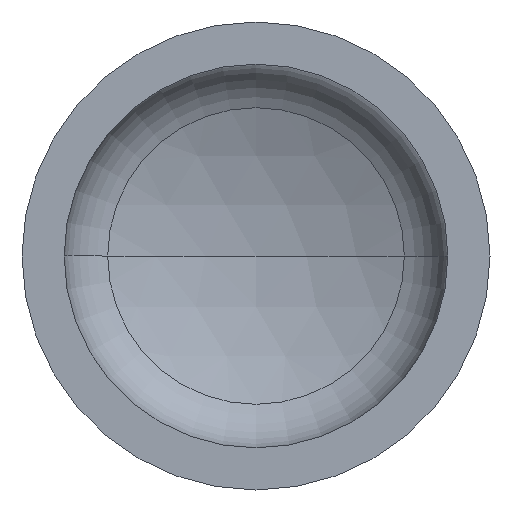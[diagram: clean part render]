
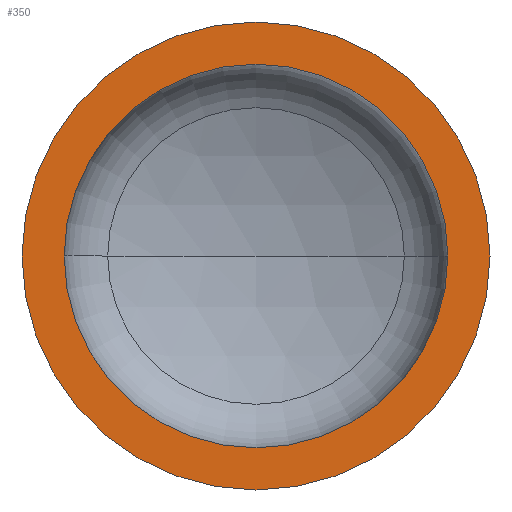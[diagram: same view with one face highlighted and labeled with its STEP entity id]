
A CAD part, front view. The second image highlights one B-rep face of the part: STEP entity #350.
In plain terms, the highlighted planar face has unit normal (0, -1, 0).
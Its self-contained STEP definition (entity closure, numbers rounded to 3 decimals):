
#9 = EDGE_LOOP ( 'NONE', ( #79, #30 ) ) ;
#22 = ORIENTED_EDGE ( 'NONE', *, *, #142, .F. ) ;
#30 = ORIENTED_EDGE ( 'NONE', *, *, #141, .T. ) ;
#42 = PLANE ( 'NONE',  #52 ) ;
#48 = FACE_OUTER_BOUND ( 'NONE', #9, .T. ) ;
#52 = AXIS2_PLACEMENT_3D ( 'NONE', #178, #184, #185 ) ;
#54 = AXIS2_PLACEMENT_3D ( 'NONE', #82, #94, #103 ) ;
#67 = EDGE_LOOP ( 'NONE', ( #22, #143 ) ) ;
#72 = VERTEX_POINT ( 'NONE', #232 ) ;
#79 = ORIENTED_EDGE ( 'NONE', *, *, #133, .T. ) ;
#82 = CARTESIAN_POINT ( 'NONE',  ( 0., 0., 0. ) ) ;
#91 = AXIS2_PLACEMENT_3D ( 'NONE', #299, #296, #294 ) ;
#94 = DIRECTION ( 'NONE',  ( 0., -1., 0. ) ) ;
#95 = AXIS2_PLACEMENT_3D ( 'NONE', #292, #289, #186 ) ;
#98 = VERTEX_POINT ( 'NONE', #273 ) ;
#103 = DIRECTION ( 'NONE',  ( 1., 0., 0. ) ) ;
#105 = AXIS2_PLACEMENT_3D ( 'NONE', #338, #337, #333 ) ;
#133 = EDGE_CURVE ( 'NONE', #72, #136, #359, .T. ) ;
#135 = VERTEX_POINT ( 'NONE', #322 ) ;
#136 = VERTEX_POINT ( 'NONE', #344 ) ;
#141 = EDGE_CURVE ( 'NONE', #136, #72, #281, .T. ) ;
#142 = EDGE_CURVE ( 'NONE', #135, #98, #405, .T. ) ;
#143 = ORIENTED_EDGE ( 'NONE', *, *, #351, .F. ) ;
#178 = CARTESIAN_POINT ( 'NONE',  ( -600., 0., 0. ) ) ;
#184 = DIRECTION ( 'NONE',  ( 0., 1., 0. ) ) ;
#185 = DIRECTION ( 'NONE',  ( -1., 0., 0. ) ) ;
#186 = DIRECTION ( 'NONE',  ( 1., 0., 0. ) ) ;
#187 = CIRCLE ( 'NONE', #54, 492. ) ;
#195 = FACE_BOUND ( 'NONE', #67, .T. ) ;
#232 = CARTESIAN_POINT ( 'NONE',  ( 600., 0., 0. ) ) ;
#273 = CARTESIAN_POINT ( 'NONE',  ( -492., 0., 0. ) ) ;
#281 = CIRCLE ( 'NONE', #95, 600. ) ;
#289 = DIRECTION ( 'NONE',  ( 0., -1., 0. ) ) ;
#292 = CARTESIAN_POINT ( 'NONE',  ( 0., 0., 0. ) ) ;
#294 = DIRECTION ( 'NONE',  ( 1., 0., 0. ) ) ;
#296 = DIRECTION ( 'NONE',  ( 0., -1., 0. ) ) ;
#299 = CARTESIAN_POINT ( 'NONE',  ( 0., 0., 0. ) ) ;
#322 = CARTESIAN_POINT ( 'NONE',  ( 492., 0., 0. ) ) ;
#333 = DIRECTION ( 'NONE',  ( 1., 0., 0. ) ) ;
#337 = DIRECTION ( 'NONE',  ( 0., -1., 0. ) ) ;
#338 = CARTESIAN_POINT ( 'NONE',  ( 0., 0., 0. ) ) ;
#344 = CARTESIAN_POINT ( 'NONE',  ( -600., 0., 0. ) ) ;
#350 = ADVANCED_FACE ( 'NONE', ( #195, #48 ), #42, .F. ) ;
#351 = EDGE_CURVE ( 'NONE', #98, #135, #187, .T. ) ;
#359 = CIRCLE ( 'NONE', #105, 600. ) ;
#405 = CIRCLE ( 'NONE', #91, 492. ) ;
